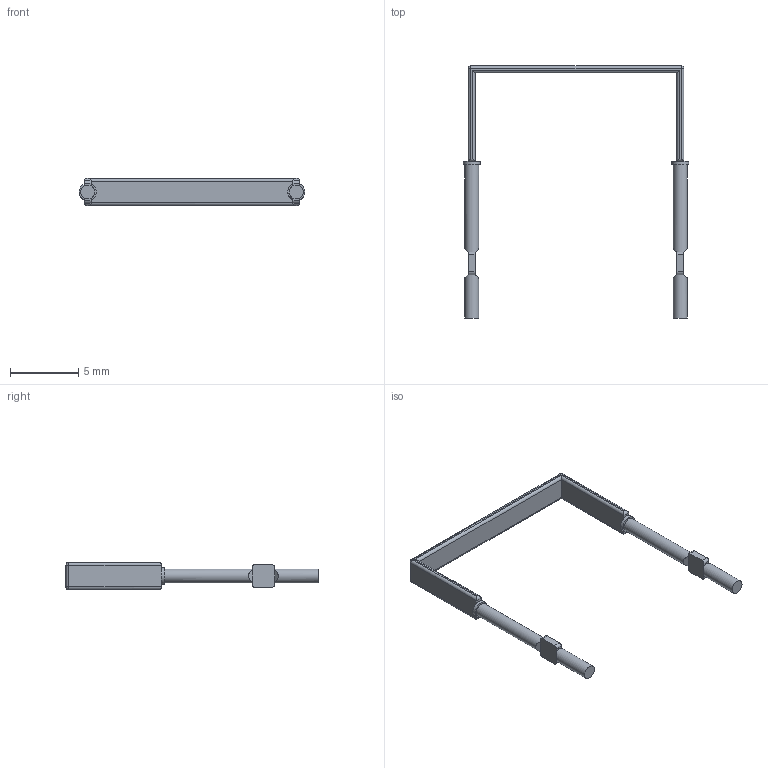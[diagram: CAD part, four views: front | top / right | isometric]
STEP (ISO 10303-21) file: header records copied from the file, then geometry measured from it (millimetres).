
FILE_DESCRIPTION(/* description */ (''),/* implementation_level */ '2;1');
FILE_NAME(/* name */ 'C:\Users\mulla\Documents\Work\SEI Models\Inventor Files\BR\BR3_stp.stp',/* time_stamp */ '2019-08-15T19:16:02-04:00',/* author */ ('mulla'),/* organization */ (''),/* preprocessor_version */ 'ST-DEVELOPER v16.1',/* originating_system */ 'Autodesk Inventor 2016',/* authorisation */ '');
FILE_SCHEMA (('AUTOMOTIVE_DESIGN { 1 0 10303 214 3 1 1 }'));
Length unit declared in the file: millimetre
Products named in the file (1): BR3
Bounding box: 16.55 x 18.48 x 2 mm (x, y, z)
Volume: 47.2 mm3; surface area: 220.7 mm2
Topology: 3 solids, 3 shells, 82 faces, 180 edges, 104 vertices
Faces by surface type: plane 46, cylinder 32, sphere 4
Full cylindrical faces by diameter (mm): 1.02 x4, 1.25 x2
Entity records: 2213 total; most frequent: DIRECTION 404, CARTESIAN_POINT 349, ORIENTED_EDGE 336, EDGE_CURVE 168, AXIS2_PLACEMENT_3D 153, LINE 98, VECTOR 98, VERTEX_POINT 98
